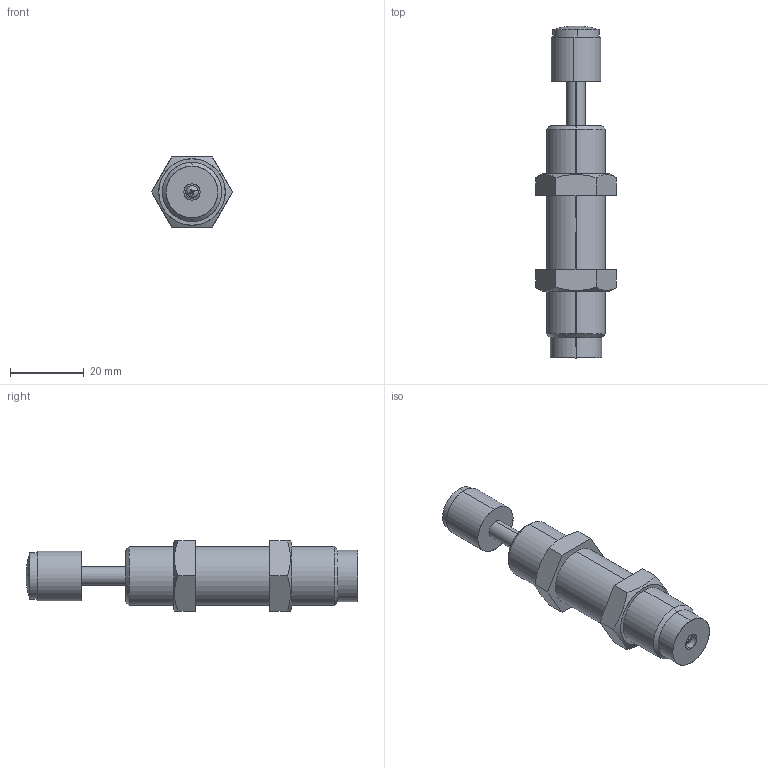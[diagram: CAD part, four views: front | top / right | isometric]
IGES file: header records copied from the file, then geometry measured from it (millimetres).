
Start section: SolidWorks IGES file using analytic representation for surfaces
Bounding box: 21.94 x 90 x 19 mm (x, y, z)
Surface area: 6451 mm2 (no closed solid volume)
Topology: 0 solids, 0 shells, 82 faces, 1340 edges, 1339 vertices
Faces by surface type: bspline 48, revolution 34
